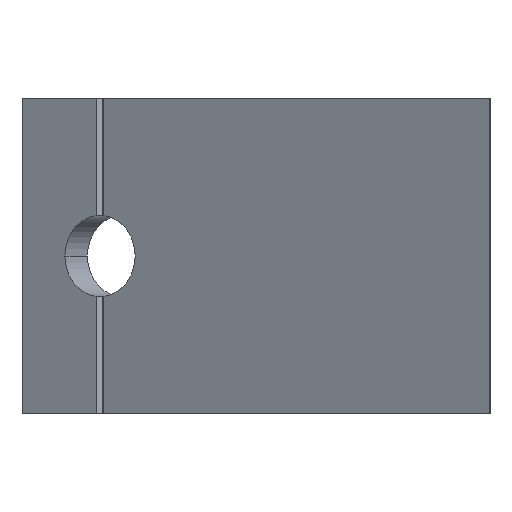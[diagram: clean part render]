
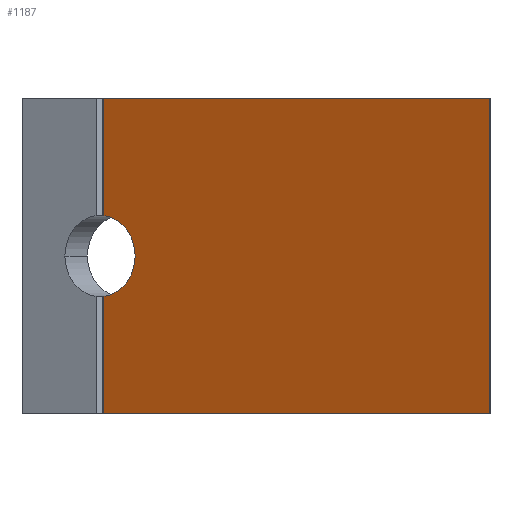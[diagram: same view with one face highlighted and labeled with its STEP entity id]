
A CAD part, left-side view. The second image highlights one B-rep face of the part: STEP entity #1187.
In plain terms, the highlighted planar face has unit normal (-0.866, 0.5, 0).
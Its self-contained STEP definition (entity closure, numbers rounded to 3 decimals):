
#56 = EDGE_CURVE ( 'NONE', #596, #559, #839, .T. ) ;
#153 = ORIENTED_EDGE ( 'NONE', *, *, #968, .T. ) ;
#162 = CARTESIAN_POINT ( 'NONE',  ( 0., 0., 0. ) ) ;
#165 = ORIENTED_EDGE ( 'NONE', *, *, #1166, .T. ) ;
#171 = LINE ( 'NONE', #475, #1308 ) ;
#178 = FACE_OUTER_BOUND ( 'NONE', #1249, .T. ) ;
#207 = CIRCLE ( 'NONE', #310, 4.5 ) ;
#215 = AXIS2_PLACEMENT_3D ( 'NONE', #454, #352, #877 ) ;
#232 = VERTEX_POINT ( 'NONE', #966 ) ;
#254 = EDGE_CURVE ( 'NONE', #535, #596, #852, .T. ) ;
#258 = ORIENTED_EDGE ( 'NONE', *, *, #56, .T. ) ;
#260 = ORIENTED_EDGE ( 'NONE', *, *, #1240, .T. ) ;
#284 = DIRECTION ( 'NONE',  ( 0., 0., 1. ) ) ;
#298 = ORIENTED_EDGE ( 'NONE', *, *, #254, .T. ) ;
#310 = AXIS2_PLACEMENT_3D ( 'NONE', #811, #947, #384 ) ;
#352 = DIRECTION ( 'NONE',  ( 0.866, -0.5, 0. ) ) ;
#368 = DIRECTION ( 'NONE',  ( -0.866, 0.5, 0. ) ) ;
#378 = VECTOR ( 'NONE', #428, 1000. ) ;
#384 = DIRECTION ( 'NONE',  ( 0.5, 0.866, 0. ) ) ;
#387 = ORIENTED_EDGE ( 'NONE', *, *, #667, .T. ) ;
#422 = LINE ( 'NONE', #933, #1064 ) ;
#428 = DIRECTION ( 'NONE',  ( 0., 0., -1. ) ) ;
#454 = CARTESIAN_POINT ( 'NONE',  ( 25., 43.301, 17.5 ) ) ;
#475 = CARTESIAN_POINT ( 'NONE',  ( 0., 0., 35. ) ) ;
#503 = VERTEX_POINT ( 'NONE', #837 ) ;
#535 = VERTEX_POINT ( 'NONE', #875 ) ;
#536 = CARTESIAN_POINT ( 'NONE',  ( 24.75, 42.868, 0. ) ) ;
#545 = CARTESIAN_POINT ( 'NONE',  ( 24.75, 42.868, 13.028 ) ) ;
#559 = VERTEX_POINT ( 'NONE', #1200 ) ;
#563 = VECTOR ( 'NONE', #731, 1000. ) ;
#567 = CARTESIAN_POINT ( 'NONE',  ( 24.75, 42.868, 21.972 ) ) ;
#596 = VERTEX_POINT ( 'NONE', #545 ) ;
#638 = VERTEX_POINT ( 'NONE', #567 ) ;
#667 = EDGE_CURVE ( 'NONE', #232, #503, #1021, .T. ) ;
#711 = CARTESIAN_POINT ( 'NONE',  ( 24.75, 42.868, 35. ) ) ;
#731 = DIRECTION ( 'NONE',  ( 0., 0., -1. ) ) ;
#770 = LINE ( 'NONE', #536, #378 ) ;
#811 = CARTESIAN_POINT ( 'NONE',  ( 25., 43.301, 17.5 ) ) ;
#813 = DIRECTION ( 'NONE',  ( -0.5, -0.866, 0. ) ) ;
#837 = CARTESIAN_POINT ( 'NONE',  ( 0., 0., 35. ) ) ;
#839 = LINE ( 'NONE', #1267, #563 ) ;
#852 = CIRCLE ( 'NONE', #215, 4.5 ) ;
#875 = CARTESIAN_POINT ( 'NONE',  ( 22.75, 39.404, 17.5 ) ) ;
#877 = DIRECTION ( 'NONE',  ( 0.5, 0.866, 0. ) ) ;
#933 = CARTESIAN_POINT ( 'NONE',  ( 0., 0., 0. ) ) ;
#947 = DIRECTION ( 'NONE',  ( 0.866, -0.5, 0. ) ) ;
#966 = CARTESIAN_POINT ( 'NONE',  ( 0., 0., 0. ) ) ;
#968 = EDGE_CURVE ( 'NONE', #1268, #638, #770, .T. ) ;
#976 = VECTOR ( 'NONE', #284, 1000. ) ;
#1021 = LINE ( 'NONE', #1207, #976 ) ;
#1064 = VECTOR ( 'NONE', #1121, 1000. ) ;
#1099 = ORIENTED_EDGE ( 'NONE', *, *, #1270, .T. ) ;
#1121 = DIRECTION ( 'NONE',  ( -0.5, -0.866, 0. ) ) ;
#1166 = EDGE_CURVE ( 'NONE', #503, #1268, #171, .T. ) ;
#1187 = ADVANCED_FACE ( 'NONE', ( #178 ), #1314, .T. ) ;
#1198 = AXIS2_PLACEMENT_3D ( 'NONE', #162, #368, #813 ) ;
#1200 = CARTESIAN_POINT ( 'NONE',  ( 24.75, 42.868, 0. ) ) ;
#1207 = CARTESIAN_POINT ( 'NONE',  ( 0., 0., 0. ) ) ;
#1213 = DIRECTION ( 'NONE',  ( 0.5, 0.866, 0. ) ) ;
#1240 = EDGE_CURVE ( 'NONE', #638, #535, #207, .T. ) ;
#1249 = EDGE_LOOP ( 'NONE', ( #165, #153, #260, #298, #258, #1099, #387 ) ) ;
#1267 = CARTESIAN_POINT ( 'NONE',  ( 24.75, 42.868, 0. ) ) ;
#1268 = VERTEX_POINT ( 'NONE', #711 ) ;
#1270 = EDGE_CURVE ( 'NONE', #559, #232, #422, .T. ) ;
#1308 = VECTOR ( 'NONE', #1213, 1000. ) ;
#1314 = PLANE ( 'NONE',  #1198 ) ;
